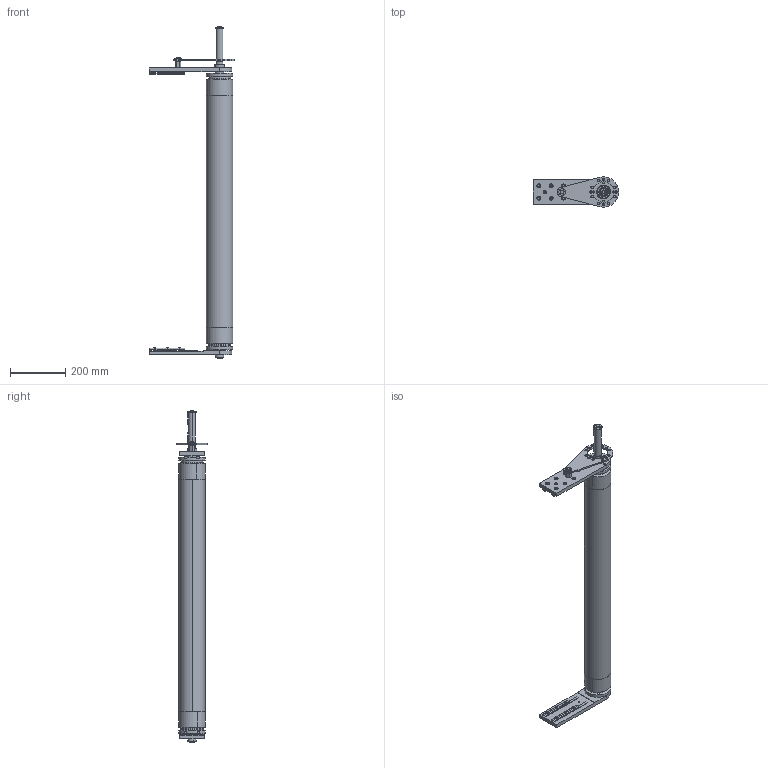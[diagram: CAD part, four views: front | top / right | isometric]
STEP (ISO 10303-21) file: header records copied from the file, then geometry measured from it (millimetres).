
FILE_DESCRIPTION (( 'STEP AP214' ), '1' );
FILE_NAME ('084.095.KDZ.63.1000.STEP', '2021-12-09T07:50:36', ( '' ), ( '' ), 'SwSTEP 2.0', 'SolidWorks 2018', '' );
FILE_SCHEMA (( 'AUTOMOTIVE_DESIGN' ));
Length unit declared in the file: millimetre
Products named in the file (20): 084.808.002_084.808.002; 084.000.A027; 449.014.106; 084.301.000 VITI ALUSIC_084.301.003; 084.095.KDZ.63.1000; 084.302.060; RONDELLE FASCIA LARGA UNI 6593_8.4x32 UNI 6593; CHIAVETTE_A 8x7x40 UNI 6604-69; RONDELLE FASCIA LARGA UNI 6593_8.4x24 UNI 6593; 084.802.034_084.802.034; 084.802.027; 084.808.005-1; 084.812.025.1000_Default<A macchina>; CHIAVETTE_A 8x7x50 UNI 6604-69; DADO ESAGONALE AUTOBLOCCANTE RIBASSATO M30-UNI 7474; 084.802.019_084.802.019; GRANI A PUNTA PIATTA UNI 5923_M8x25 UNI 5923; 084.808.003_084.808.003; VITI TE UNI 5739_M8x16 UNI 5739; 084.812.023.1000_Default<A macchina>
Assembly tree (37 placements, depth 3):
  084.095.KDZ.63.1000
    449.014.106  x2
    084.802.034_084.802.034
    DADO ESAGONALE AUTOBLOCCANTE RIBASSATO M30-UNI 7474  x2
    VITI TE UNI 5739_M8x16 UNI 5739
    RONDELLE FASCIA LARGA UNI 6593_8.4x32 UNI 6593
    084.000.A027
      084.802.027
      084.808.005-1
      GRANI A PUNTA PIATTA UNI 5923_M8x25 UNI 5923
      RONDELLE FASCIA LARGA UNI 6593_8.4x24 UNI 6593
      VITI TE UNI 5739_M8x16 UNI 5739
    084.812.025.1000_Default<A macchina>
    084.812.023.1000_Default<A macchina>
    084.808.002_084.808.002
    084.802.019_084.802.019
    084.808.003_084.808.003
    084.302.060  x4
    CHIAVETTE_A 8x7x50 UNI 6604-69
    CHIAVETTE_A 8x7x40 UNI 6604-69  x2
    084.301.000 VITI ALUSIC_084.301.003  x12
Bounding box: 310 x 110 x 1205.33 mm (x, y, z)
Volume: 4147955.9 mm3; surface area: 1274100.1 mm2
Topology: 41 solids, 42 shells, 915 faces, 2233 edges, 1436 vertices
Faces by surface type: plane 382, cylinder 330, cone 94, bspline 56, torus 44, sphere 9
Entity records: 20931 total; most frequent: CARTESIAN_POINT 4652, DIRECTION 3209, ORIENTED_EDGE 3068, EDGE_CURVE 1534, AXIS2_PLACEMENT_3D 1253, VERTEX_POINT 996, EDGE_LOOP 742, LINE 703
